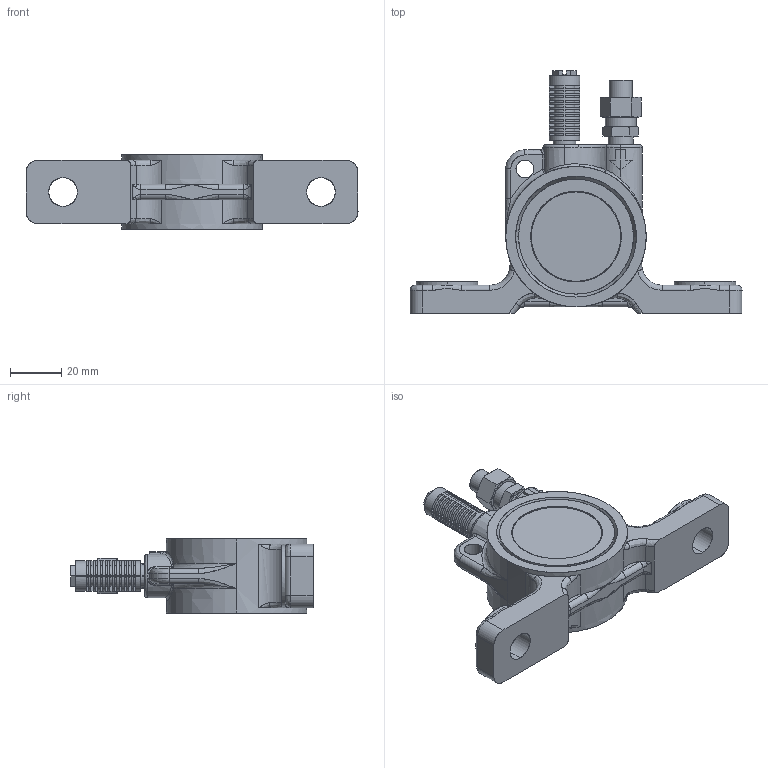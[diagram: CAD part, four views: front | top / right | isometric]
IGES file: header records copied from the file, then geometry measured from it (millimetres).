
Start section: SolidWorks IGES file using analytic representation for surfaces
Global section: file name: V:\WORK\08133\HP 寸法図\ball\UH13A\test_A96000E-000 UH13A_defeature.IGS,15; native system: HSolidWorks 2018; preprocessor: SolidWorks 2018; author: n-udagawa; date: 230112.114231; units: millimetre
Bounding box: 130 x 95 x 29 mm (x, y, z)
Surface area: 23504.7 mm2 (no closed solid volume)
Topology: 0 solids, 0 shells, 456 faces, 7053 edges, 8125 vertices
Faces by surface type: bspline 313, revolution 143
